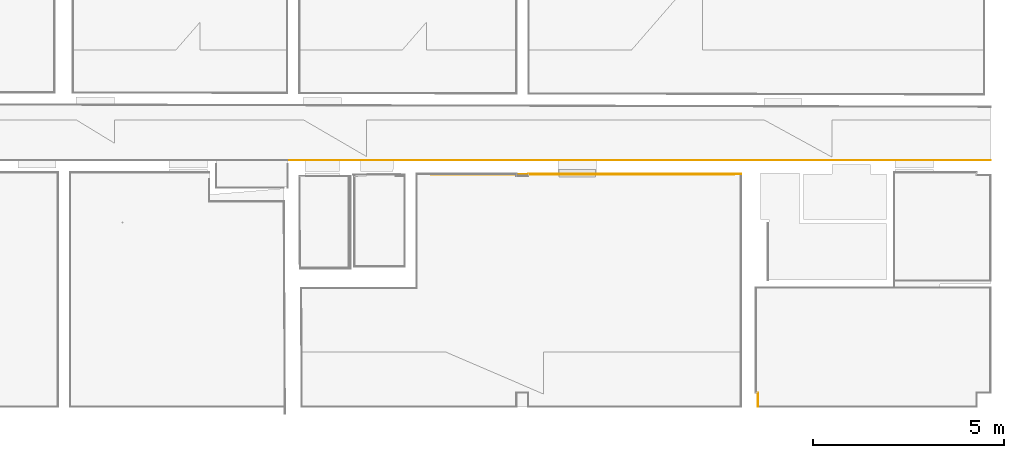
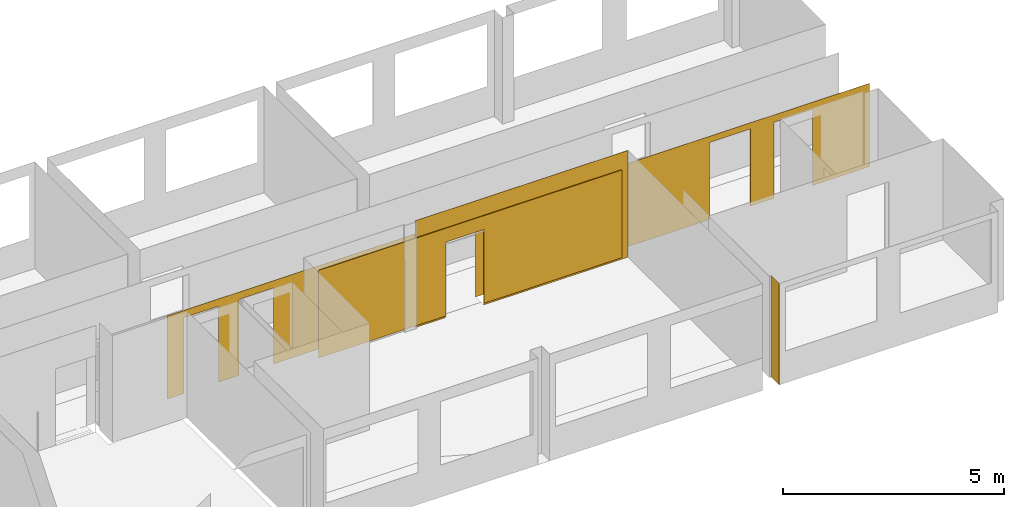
# One storey, part 10 of 16: 4 coverings, 7 openings.
"""IFC2X3 building model written with IfcOpenShell, lengths in millimetres."""

from ifc_helpers import new_model, entity, si_unit, converted_unit, derived_unit, money_unit, direction, frame, origin_with_axes, origin_2d_with_axis, place, context, subcontext, project, spatial, polyline, rectangle, outline, extrude, material, type_object, element, save


model = new_model("IFC2X3")

# Units and contexts
model_context = context("Model", 3, precision=0.01, world=origin_with_axes(), true_north=direction((0.0, 1.0)))
body_context = subcontext(model_context, "Body", "Model", "MODEL_VIEW")
ifc_project = project(units=[si_unit("LENGTHUNIT", "METRE", prefix="MILLI"), si_unit("AREAUNIT", "SQUARE_METRE"), si_unit("VOLUMEUNIT", "CUBIC_METRE"), converted_unit("PLANEANGLEUNIT", "DEGREE", entity("IfcPlaneAngleMeasure", 0.0174532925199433), si_unit("PLANEANGLEUNIT", "RADIAN"), dimensions=[0, 0, 0, 0, 0, 0, 0]), money_unit("EUR"), converted_unit("TIMEUNIT", "Year", entity("IfcTimeMeasure", 31556926.0), si_unit("TIMEUNIT", "SECOND"), dimensions=[0, 0, 1, 0, 0, 0, 0]), si_unit("MASSUNIT", "GRAM", prefix="KILO"), si_unit("THERMODYNAMICTEMPERATUREUNIT", "DEGREE_CELSIUS"), si_unit("LUMINOUSINTENSITYUNIT", "LUMEN"), si_unit("ENERGYUNIT", "JOULE", prefix="MEGA"), derived_unit("THERMALCONDUCTANCEUNIT", [(si_unit("POWERUNIT", "WATT"), 1), (si_unit("LENGTHUNIT", "METRE"), -1), (si_unit("THERMODYNAMICTEMPERATUREUNIT", "KELVIN"), -1)]), derived_unit("SPECIFICHEATCAPACITYUNIT", [(si_unit("ENERGYUNIT", "JOULE"), 1), (si_unit("MASSUNIT", "GRAM", prefix="KILO"), -1), (si_unit("THERMODYNAMICTEMPERATUREUNIT", "KELVIN"), -1)]), derived_unit("MASSDENSITYUNIT", [(si_unit("MASSUNIT", "GRAM", prefix="KILO"), 1), (si_unit("VOLUMEUNIT", "CUBIC_METRE"), -1)])], contexts=[model_context])

# Site, building, storey
site_placement = place(None, origin_with_axes())
site = spatial("IfcSite", under=ifc_project, at=site_placement, Name="Paldiski mnt 245/1, Tallinn, Harjumaa", CompositionType="COMPLEX")
building_placement = place(site_placement, origin_with_axes())
building = spatial("IfcBuilding", under=site, at=building_placement, Name="RKAS Hoone üldnimetus (kasutust iseloomustav) -> IFC Project Manager -> SOLIBRI", CompositionType="ELEMENT")
storey_placement = place(building_placement, frame((0.0, 0.0, 3300.0), z_axis=(0.0, 0.0, 1.0), x_axis=(1.0, 0.0, 0.0)))
storey = spatial("IfcBuildingStorey", under=building, at=storey_placement, Name="Teine korrus", CompositionType="ELEMENT", Elevation=3300.0)

# Covering, opening
ifc_material_1 = material(Name="SA- Puitribi SM1(puitribi)")
covering_type_1 = type_object("IfcCoveringType", Name="SA- Puitribi SM1(puitribi) 20", PredefinedType="CLADDING")
covering_1_placement = place(storey_placement, frame((-23920.91551927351, -6432.999999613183, 60.00000000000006), z_axis=(0.0, 0.0, 1.0), x_axis=(-1.0, 0.0, 0.0)))
covering_1 = element("IfcCovering", 1, at=covering_1_placement, inside=storey, type_object=covering_type_1, material=ifc_material_1, Name="SM1", PredefinedType="CLADDING", context=body_context, shape_type="SweptSolid", body=[
    extrude(outline(polyline([(0.0, 0.0), (7922.904101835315, 0.0), (7922.904101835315, 19.99999999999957), (0.0, 19.99999999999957), (0.0, 0.0)])), origin_with_axes(), (0.0, 0.0, 1.0), 2420.0),
])
opening_1_placement = place(covering_1_placement, frame((-23920.91551927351, -6432.999999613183, -3360.0), z_axis=(0.0, 0.0, 1.0), x_axis=(-1.0, 0.0, 0.0)))
element("IfcOpeningElement", 2, at=opening_1_placement, cuts=covering_1, Name="AVA", ObjectType="OPENING", context=body_context, shape_type="SweptSolid", body=[
    extrude(rectangle(XDim=1000.0, YDim=2100.0, at=origin_2d_with_axis()), frame((-28024.28087836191, -6412.999999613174, 4350.000000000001), z_axis=(0.0, 1.0, 0.0), x_axis=(-1.0, 0.0, 0.0)), (0.0, 0.0, -1.0), 60.00000000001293),
])

# Covering
ifc_material_2 = material(Name="SA- Värv SM5(valge)")
covering_type_2 = type_object("IfcCoveringType", Name="SA- Värv SM5(valge) 5", PredefinedType="CLADDING")
covering_2_placement = place(storey_placement, frame((-23310.00000000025, -12150.08408706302, 0.0), z_axis=(0.0, 0.0, 1.0), x_axis=(0.0, -1.0, 0.0)))
element("IfcCovering", 3, at=covering_2_placement, inside=storey, type_object=covering_type_2, material=ifc_material_2, Name="SM5", PredefinedType="CLADDING", context=body_context, shape_type="SweptSolid", body=[
    extrude(outline(polyline([(0.0, 0.0), (360.000214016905, 0.0), (360.0002140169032, 4.999999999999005), (-5.000014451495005, 4.999999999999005), (0.0, 0.0)])), origin_with_axes(), (0.0, 0.0, 1.0), 2800.0),
])

# Covering, opening
covering_3_placement = place(storey_placement, frame((-23748.00000000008, -6427.999999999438, 0.0), z_axis=(0.0, 0.0, 1.0), x_axis=(-1.0, 1.370003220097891e-09, 0.0)))
covering_3 = element("IfcCovering", 4, at=covering_3_placement, inside=storey, type_object=covering_type_2, material=ifc_material_2, Name="SM5", PredefinedType="CLADDING", context=body_context, shape_type="SweptSolid", body=[
    extrude(outline(polyline([(0.0, 0.0), (5562.000064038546, 0.0), (5557.000057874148, 4.999999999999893), (-6.846079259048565e-09, 4.999999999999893), (0.0, 0.0)])), origin_with_axes(), (0.0, 0.0, 1.0), 2950.0),
])
opening_2_placement = place(covering_3_placement, frame((-23747.9999911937, -6428.000032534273, -3300.0), z_axis=(0.0, 0.0, 1.0), x_axis=(-1.0, -1.370003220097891e-09, 0.0)))
element("IfcOpeningElement", 5, at=opening_2_placement, cuts=covering_3, Name="AVA", ObjectType="OPENING", context=body_context, shape_type="SweptSolid", body=[
    extrude(rectangle(XDim=999.9999999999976, YDim=2080.000000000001, at=origin_2d_with_axis()), frame((-28024.28087833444, -6422.999984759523, 4340.0), z_axis=(1.370003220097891e-09, 1.0, 0.0), x_axis=(-1.0, 1.370003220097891e-09, 0.0)), (0.0, 0.0, -1.0), 15.00002285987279),
])

# Covering, openings
ifc_material_3 = material(Name="SA- Värv SM8(helebeez)")
covering_type_3 = type_object("IfcCoveringType", Name="SA- Värv SM8(helebeez) 5", PredefinedType="CLADDING")
covering_4_placement = place(storey_placement, frame((-35590.0000000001, -6071.999999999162, 0.0), z_axis=(0.0, 0.0, 1.0), x_axis=(1.0, 0.0, 0.0)))
covering_4 = element("IfcCovering", 6, at=covering_4_placement, inside=storey, type_object=covering_type_3, material=ifc_material_3, Name="SM8", PredefinedType="CLADDING", context=body_context, shape_type="SweptSolid", body=[
    extrude(outline(polyline([(0.0, 0.0), (18358.99999999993, 0.0), (18358.99999999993, 4.999999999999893), (0.0, 4.999999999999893), (0.0, 0.0)])), origin_with_axes(), (0.0, 0.0, 1.0), 2300.0),
])
opening_3_placement = place(covering_4_placement, frame((35590.0000000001, 6071.999999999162, -3300.0), z_axis=(0.0, 0.0, 1.0), x_axis=(1.0, 0.0, 0.0)))
element("IfcOpeningElement", 7, at=opening_3_placement, cuts=covering_4, Name="AVA", ObjectType="OPENING", context=body_context, shape_type="SweptSolid", body=[
    extrude(rectangle(XDim=1060.94423976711, YDim=2129.839545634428, at=origin_2d_with_axis()), frame((-20879.96680951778, -6076.999999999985, 4364.919772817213), z_axis=(0.0, -1.0, 0.0), x_axis=(1.0, 0.0, 0.0)), (0.0, 0.0, -1.0), 15.00000000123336),
])
opening_4_placement = place(covering_4_placement, frame((35590.0000000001, 6071.999999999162, -3300.0), z_axis=(0.0, 0.0, 1.0), x_axis=(1.0, 0.0, 0.0)))
element("IfcOpeningElement", 8, at=opening_4_placement, cuts=covering_4, Name="AVA", ObjectType="OPENING", context=body_context, shape_type="SweptSolid", body=[
    extrude(rectangle(XDim=900.0000000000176, YDim=2100.0, at=origin_2d_with_axis()), frame((-33257.35784993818, -6076.999999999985, 4350.0), z_axis=(0.0, -1.0, 0.0), x_axis=(1.0, 0.0, 0.0)), (0.0, 0.0, -1.0), 15.00000000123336),
])
opening_5_placement = place(covering_4_placement, frame((35590.0000000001, 6071.999999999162, -3300.0), z_axis=(0.0, 0.0, 1.0), x_axis=(1.0, 0.0, 0.0)))
element("IfcOpeningElement", 9, at=opening_5_placement, cuts=covering_4, Name="AVA", ObjectType="OPENING", context=body_context, shape_type="SweptSolid", body=[
    extrude(rectangle(XDim=1000.000000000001, YDim=2100.0, at=origin_2d_with_axis()), frame((-28023.73511249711, -6076.999999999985, 4350.0), z_axis=(0.0, -1.0, 0.0), x_axis=(1.0, 0.0, 0.0)), (0.0, 0.0, -1.0), 15.00000000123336),
])
opening_6_placement = place(covering_4_placement, frame((35590.0000000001, 6071.999999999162, -3300.0), z_axis=(0.0, 0.0, 1.0), x_axis=(1.0, 0.0, 0.0)))
element("IfcOpeningElement", 10, at=opening_6_placement, cuts=covering_4, Name="AVA", ObjectType="OPENING", context=body_context, shape_type="SweptSolid", body=[
    extrude(rectangle(XDim=899.9999999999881, YDim=2100.0, at=origin_2d_with_axis()), frame((-34690.00000000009, -6076.999999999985, 4350.0), z_axis=(0.0, -1.0, 0.0), x_axis=(1.0, 0.0, 0.0)), (0.0, 0.0, -1.0), 15.00000000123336),
])
opening_7_placement = place(covering_4_placement, frame((35590.0000000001, 6071.999999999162, -3300.0), z_axis=(0.0, 0.0, 1.0), x_axis=(1.0, 0.0, 0.0)))
element("IfcOpeningElement", 11, at=opening_7_placement, cuts=covering_4, Name="AVA", ObjectType="OPENING", context=body_context, shape_type="SweptSolid", body=[
    extrude(rectangle(XDim=1000.000000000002, YDim=2100.0, at=origin_2d_with_axis()), frame((-19225.00000000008, -6076.999999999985, 4350.0), z_axis=(0.0, -1.0, 0.0), x_axis=(1.0, 0.0, 0.0)), (0.0, 0.0, -1.0), 15.00000000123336),
])

save(model, "model.ifc")
